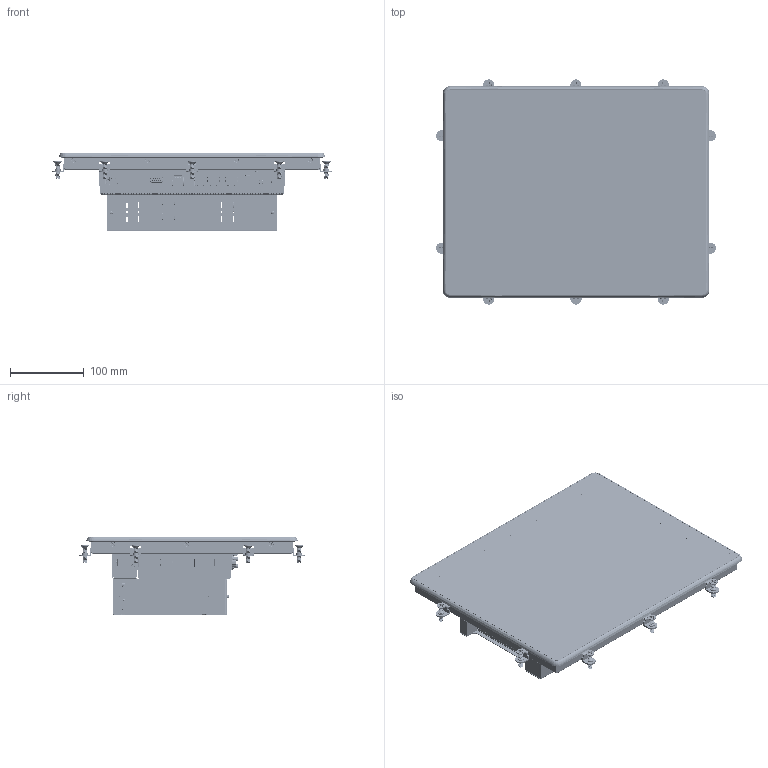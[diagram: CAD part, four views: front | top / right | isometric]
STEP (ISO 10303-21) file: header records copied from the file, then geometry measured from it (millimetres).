
FILE_DESCRIPTION((''),'2;1');
FILE_NAME('NP4C-150-Z','2026-06-02T10:34:58',('gijyu181'),(''),'CREO PARAMETRIC BY PTC INC, 2018050','CREO PARAMETRIC BY PTC INC, 2018050','');
FILE_SCHEMA(('CONFIG_CONTROL_DESIGN','SHAPE_APPEARANCE_LAYERS_GROUPS'));
Products named in the file (1): NP4C-150-Z
Bounding box: 378.6 x 304.6 x 106.1 mm (x, y, z)
Volume: 1157896.6 mm3; surface area: 1074159.2 mm2
Topology: 38 solids, 116 shells, 35667 faces, 103756 edges, 68423 vertices
Faces by surface type: plane 24035, cylinder 8659, extrusion 1414, cone 597, bspline 539, torus 283, sphere 124, revolution 16
Entity records: 1431765 total; most frequent: CARTESIAN_POINT 323584, ORIENTED_EDGE 206439, DIRECTION 183799, EDGE_CURVE 103666, VECTOR 80769, LINE 79355, VERTEX_POINT 68424, AXIS2_PLACEMENT_3D 51507
